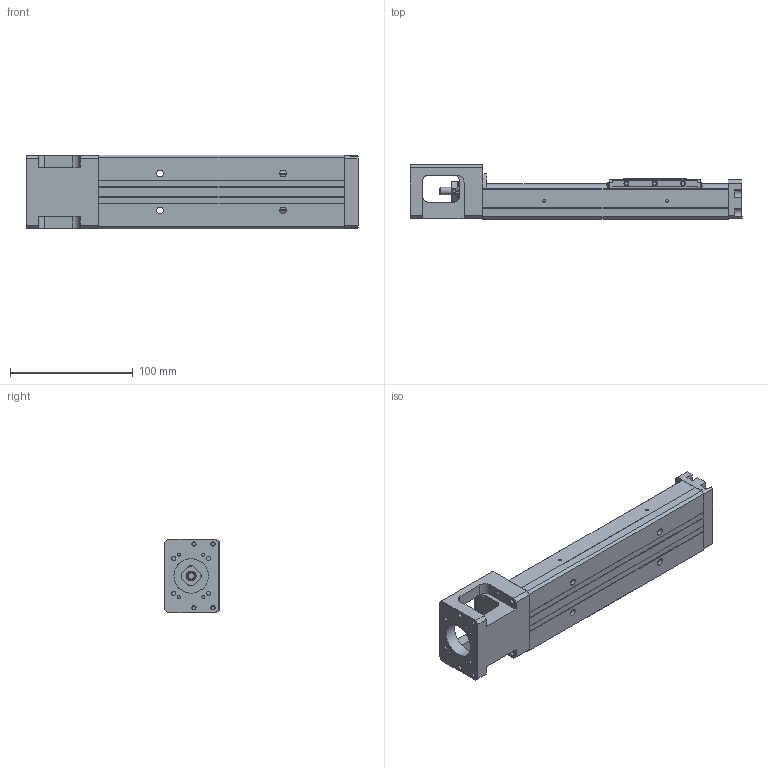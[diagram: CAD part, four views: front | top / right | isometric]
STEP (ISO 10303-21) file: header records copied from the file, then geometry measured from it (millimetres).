
FILE_DESCRIPTION(/* description */ (''),/* implementation_level */ '2;1');
FILE_NAME(/* name */ 'KP33N-200C02-1.stp',/* time_stamp */ '2020-07-01T11:28:15+08:00',/* author */ (''),/* organization */ (''),/* preprocessor_version */ 'ST-DEVELOPER v14',/* originating_system */ 'SIEMENS PLM Software NX 8.0',/* authorisation */ '');
FILE_SCHEMA (('AUTOMOTIVE_DESIGN { 1 0 10303 214 3 1 1 1 }'));
Length unit declared in the file: millimetre
Products named in the file (1): model1
Bounding box: 270 x 44.45 x 60 mm (x, y, z)
Volume: 346592.4 mm3; surface area: 97445.3 mm2
Topology: 5 solids, 10 shells, 608 faces, 1559 edges, 1026 vertices
Faces by surface type: plane 359, cylinder 166, bspline 31, cone 22, extrusion 21, torus 7, sphere 2
Full cylindrical faces by diameter (mm): 1.6 x2, 1.65 x4, 2.15 x2, 2.42 x4, 2.45 x2, 2.5 x8, 3 x3, 3.2 x4, 3.3 x4, 3.4 x3, 3.5 x10, 3.969 x1, 4 x6, 4.001 x1, 4.135 x4, 5.5 x4, 6 x5, 7.6 x1, 8 x5, 9.5 x4, 10.72 x3, 11.8 x2, 12 x6, 12.8 x1, 13 x2, 14 x1, 16 x4, 21.5 x1, 28 x1
Entity records: 29018 total; most frequent: CARTESIAN_POINT 15045, DIRECTION 2789, ORIENTED_EDGE 2732, EDGE_CURVE 1366, AXIS2_PLACEMENT_3D 972, VERTEX_POINT 960, EDGE_LOOP 846, VECTOR 845
